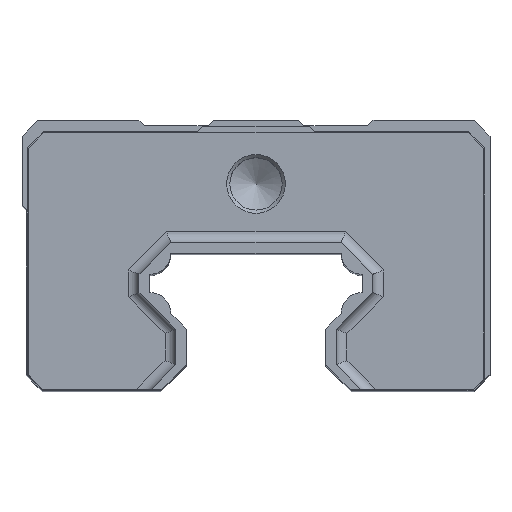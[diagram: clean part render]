
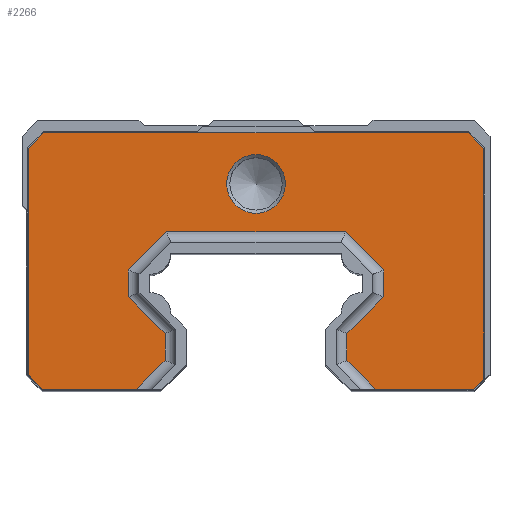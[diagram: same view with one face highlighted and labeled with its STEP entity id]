
A CAD part, top view. The second image highlights one B-rep face of the part: STEP entity #2266.
In plain terms, the highlighted planar face has unit normal (0, 0, 1).
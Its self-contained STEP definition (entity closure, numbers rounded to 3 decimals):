
#39=FACE_BOUND('',#342,.T.);
#45=PLANE('',#2410);
#224=FACE_OUTER_BOUND('',#341,.T.);
#341=EDGE_LOOP('',(#1630,#1631,#1632,#1633,#1634,#1635,#1636,#1637,#1638,
#1639,#1640,#1641,#1642,#1643,#1644,#1645,#1646,#1647,#1648,#1649));
#342=EDGE_LOOP('',(#1650));
#481=LINE('',#3258,#755);
#482=LINE('',#3260,#756);
#483=LINE('',#3262,#757);
#484=LINE('',#3264,#758);
#485=LINE('',#3266,#759);
#486=LINE('',#3268,#760);
#487=LINE('',#3270,#761);
#488=LINE('',#3272,#762);
#489=LINE('',#3274,#763);
#490=LINE('',#3276,#764);
#491=LINE('',#3278,#765);
#492=LINE('',#3280,#766);
#493=LINE('',#3282,#767);
#494=LINE('',#3284,#768);
#495=LINE('',#3286,#769);
#496=LINE('',#3288,#770);
#497=LINE('',#3290,#771);
#498=LINE('',#3292,#772);
#499=LINE('',#3294,#773);
#500=LINE('',#3295,#774);
#755=VECTOR('',#2623,10.);
#756=VECTOR('',#2624,10.);
#757=VECTOR('',#2625,10.);
#758=VECTOR('',#2626,10.);
#759=VECTOR('',#2627,10.);
#760=VECTOR('',#2628,10.);
#761=VECTOR('',#2629,10.);
#762=VECTOR('',#2630,10.);
#763=VECTOR('',#2631,10.);
#764=VECTOR('',#2632,10.);
#765=VECTOR('',#2633,10.);
#766=VECTOR('',#2634,10.);
#767=VECTOR('',#2635,10.);
#768=VECTOR('',#2636,10.);
#769=VECTOR('',#2637,10.);
#770=VECTOR('',#2638,10.);
#771=VECTOR('',#2639,10.);
#772=VECTOR('',#2640,10.);
#773=VECTOR('',#2641,10.);
#774=VECTOR('',#2642,10.);
#1009=CIRCLE('',#2405,2.759);
#1061=VERTEX_POINT('',#3244);
#1065=VERTEX_POINT('',#3256);
#1066=VERTEX_POINT('',#3257);
#1067=VERTEX_POINT('',#3259);
#1068=VERTEX_POINT('',#3261);
#1069=VERTEX_POINT('',#3263);
#1070=VERTEX_POINT('',#3265);
#1071=VERTEX_POINT('',#3267);
#1072=VERTEX_POINT('',#3269);
#1073=VERTEX_POINT('',#3271);
#1074=VERTEX_POINT('',#3273);
#1075=VERTEX_POINT('',#3275);
#1076=VERTEX_POINT('',#3277);
#1077=VERTEX_POINT('',#3279);
#1078=VERTEX_POINT('',#3281);
#1079=VERTEX_POINT('',#3283);
#1080=VERTEX_POINT('',#3285);
#1081=VERTEX_POINT('',#3287);
#1082=VERTEX_POINT('',#3289);
#1083=VERTEX_POINT('',#3291);
#1084=VERTEX_POINT('',#3293);
#1285=EDGE_CURVE('',#1061,#1061,#1009,.T.);
#1291=EDGE_CURVE('',#1065,#1066,#481,.T.);
#1292=EDGE_CURVE('',#1065,#1067,#482,.T.);
#1293=EDGE_CURVE('',#1067,#1068,#483,.T.);
#1294=EDGE_CURVE('',#1068,#1069,#484,.T.);
#1295=EDGE_CURVE('',#1069,#1070,#485,.T.);
#1296=EDGE_CURVE('',#1070,#1071,#486,.T.);
#1297=EDGE_CURVE('',#1071,#1072,#487,.T.);
#1298=EDGE_CURVE('',#1072,#1073,#488,.T.);
#1299=EDGE_CURVE('',#1073,#1074,#489,.T.);
#1300=EDGE_CURVE('',#1074,#1075,#490,.T.);
#1301=EDGE_CURVE('',#1076,#1075,#491,.T.);
#1302=EDGE_CURVE('',#1077,#1076,#492,.T.);
#1303=EDGE_CURVE('',#1078,#1077,#493,.T.);
#1304=EDGE_CURVE('',#1079,#1078,#494,.T.);
#1305=EDGE_CURVE('',#1080,#1079,#495,.T.);
#1306=EDGE_CURVE('',#1081,#1080,#496,.T.);
#1307=EDGE_CURVE('',#1082,#1081,#497,.T.);
#1308=EDGE_CURVE('',#1083,#1082,#498,.T.);
#1309=EDGE_CURVE('',#1084,#1083,#499,.T.);
#1310=EDGE_CURVE('',#1066,#1084,#500,.T.);
#1630=ORIENTED_EDGE('',*,*,#1291,.F.);
#1631=ORIENTED_EDGE('',*,*,#1292,.T.);
#1632=ORIENTED_EDGE('',*,*,#1293,.T.);
#1633=ORIENTED_EDGE('',*,*,#1294,.T.);
#1634=ORIENTED_EDGE('',*,*,#1295,.T.);
#1635=ORIENTED_EDGE('',*,*,#1296,.T.);
#1636=ORIENTED_EDGE('',*,*,#1297,.T.);
#1637=ORIENTED_EDGE('',*,*,#1298,.T.);
#1638=ORIENTED_EDGE('',*,*,#1299,.T.);
#1639=ORIENTED_EDGE('',*,*,#1300,.T.);
#1640=ORIENTED_EDGE('',*,*,#1301,.F.);
#1641=ORIENTED_EDGE('',*,*,#1302,.F.);
#1642=ORIENTED_EDGE('',*,*,#1303,.F.);
#1643=ORIENTED_EDGE('',*,*,#1304,.F.);
#1644=ORIENTED_EDGE('',*,*,#1305,.F.);
#1645=ORIENTED_EDGE('',*,*,#1306,.F.);
#1646=ORIENTED_EDGE('',*,*,#1307,.F.);
#1647=ORIENTED_EDGE('',*,*,#1308,.F.);
#1648=ORIENTED_EDGE('',*,*,#1309,.F.);
#1649=ORIENTED_EDGE('',*,*,#1310,.F.);
#1650=ORIENTED_EDGE('',*,*,#1285,.F.);
#2266=ADVANCED_FACE('',(#224,#39),#45,.T.);
#2405=AXIS2_PLACEMENT_3D('',#3245,#2609,#2610);
#2410=AXIS2_PLACEMENT_3D('',#3255,#2621,#2622);
#2609=DIRECTION('center_axis',(0.,0.,1.));
#2610=DIRECTION('ref_axis',(-1.,0.,0.));
#2621=DIRECTION('center_axis',(0.,0.,1.));
#2622=DIRECTION('ref_axis',(1.,0.,0.));
#2623=DIRECTION('',(-0.707,0.707,0.));
#2624=DIRECTION('',(1.,0.,0.));
#2625=DIRECTION('',(0.707,0.707,0.));
#2626=DIRECTION('',(0.,1.,0.));
#2627=DIRECTION('',(-0.707,0.707,0.));
#2628=DIRECTION('',(-1.,0.,0.));
#2629=DIRECTION('',(-0.707,-0.707,0.));
#2630=DIRECTION('',(0.,-1.,0.));
#2631=DIRECTION('',(0.707,-0.707,0.));
#2632=DIRECTION('',(1.,0.,0.));
#2633=DIRECTION('',(-0.707,-0.707,0.));
#2634=DIRECTION('',(0.,-1.,0.));
#2635=DIRECTION('',(0.707,-0.707,0.));
#2636=DIRECTION('',(0.,-1.,0.));
#2637=DIRECTION('',(-0.707,-0.707,0.));
#2638=DIRECTION('',(-1.,0.,0.));
#2639=DIRECTION('',(-0.707,0.707,0.));
#2640=DIRECTION('',(0.,1.,0.));
#2641=DIRECTION('',(0.707,0.707,0.));
#2642=DIRECTION('',(0.,1.,0.));
#3244=CARTESIAN_POINT('',(2.759,24.,38.3));
#3245=CARTESIAN_POINT('Origin',(0.,24.,38.3));
#3255=CARTESIAN_POINT('Origin',(0.,16.75,38.3));
#3256=CARTESIAN_POINT('',(11.264,4.7,38.3));
#3257=CARTESIAN_POINT('',(8.55,7.414,38.3));
#3258=CARTESIAN_POINT('',(3.932,12.032,38.3));
#3259=CARTESIAN_POINT('',(20.459,4.7,38.3));
#3260=CARTESIAN_POINT('',(8.85,4.7,38.3));
#3261=CARTESIAN_POINT('',(21.4,5.641,38.3));
#3262=CARTESIAN_POINT('',(20.459,4.7,38.3));
#3263=CARTESIAN_POINT('',(21.4,27.359,38.3));
#3264=CARTESIAN_POINT('',(21.4,5.641,38.3));
#3265=CARTESIAN_POINT('',(19.959,28.8,38.3));
#3266=CARTESIAN_POINT('',(21.4,27.359,38.3));
#3267=CARTESIAN_POINT('',(-19.959,28.8,38.3));
#3268=CARTESIAN_POINT('',(19.959,28.8,38.3));
#3269=CARTESIAN_POINT('',(-21.4,27.359,38.3));
#3270=CARTESIAN_POINT('',(-19.959,28.8,38.3));
#3271=CARTESIAN_POINT('',(-21.4,6.041,38.3));
#3272=CARTESIAN_POINT('',(-21.4,27.359,38.3));
#3273=CARTESIAN_POINT('',(-20.059,4.7,38.3));
#3274=CARTESIAN_POINT('',(-21.4,6.041,38.3));
#3275=CARTESIAN_POINT('',(-11.264,4.7,38.3));
#3276=CARTESIAN_POINT('',(-20.059,4.7,38.3));
#3277=CARTESIAN_POINT('',(-8.55,7.414,38.3));
#3278=CARTESIAN_POINT('',(-5.082,10.882,38.3));
#3279=CARTESIAN_POINT('',(-8.55,9.936,38.3));
#3280=CARTESIAN_POINT('',(-8.55,11.875,38.3));
#3281=CARTESIAN_POINT('',(-12.,13.386,38.3));
#3282=CARTESIAN_POINT('',(-7.97,9.355,38.3));
#3283=CARTESIAN_POINT('',(-12.,15.914,38.3));
#3284=CARTESIAN_POINT('',(-12.,15.275,38.3));
#3285=CARTESIAN_POINT('',(-8.414,19.5,38.3));
#3286=CARTESIAN_POINT('',(-8.645,19.27,38.3));
#3287=CARTESIAN_POINT('',(8.414,19.5,38.3));
#3288=CARTESIAN_POINT('',(-4.,19.5,38.3));
#3289=CARTESIAN_POINT('',(12.,15.914,38.3));
#3290=CARTESIAN_POINT('',(7.145,20.77,38.3));
#3291=CARTESIAN_POINT('',(12.,13.386,38.3));
#3292=CARTESIAN_POINT('',(12.,16.125,38.3));
#3293=CARTESIAN_POINT('',(8.55,9.936,38.3));
#3294=CARTESIAN_POINT('',(9.695,11.08,38.3));
#3295=CARTESIAN_POINT('',(8.55,13.55,38.3));
